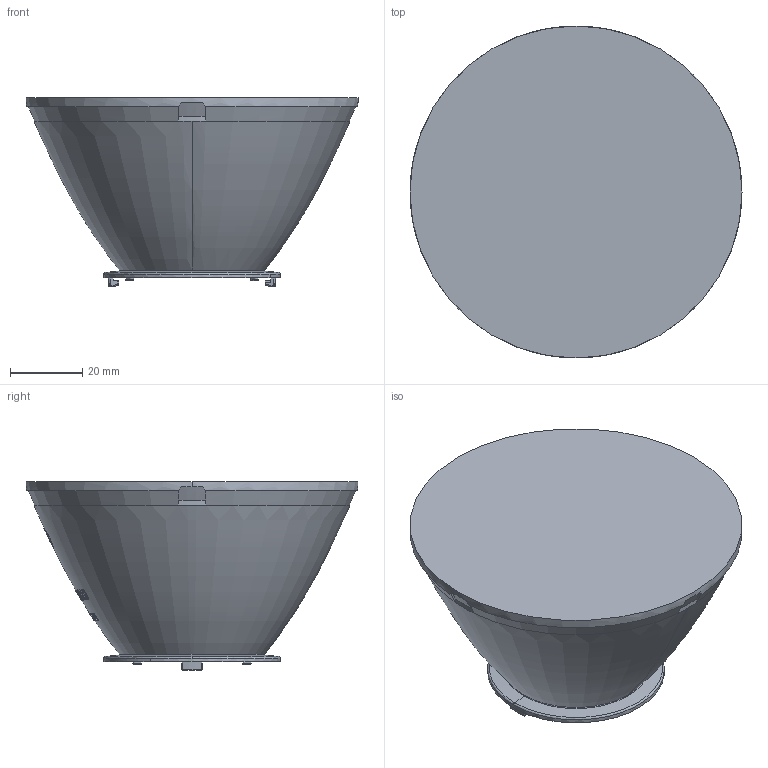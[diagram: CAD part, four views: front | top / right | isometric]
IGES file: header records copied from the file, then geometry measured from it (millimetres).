
Global section: file name: C:\CoreTechnologie\3D-In/022YJ0AY04.igs; native system: CT CoreTechnologie 3D Evolution; preprocessor: 2006; author: CT CoreTechnologie; organization: CT CoreTechnologie; date: 220506.094711; units: millimetre
Bounding box: 92 x 92 x 52.35 mm (x, y, z)
Volume: 194641.3 mm3; surface area: 21509.5 mm2
Topology: 1 solids, 1 shells, 402 faces, 1090 edges, 707 vertices
Faces by surface type: plane 148, bspline 147, revolution 107
